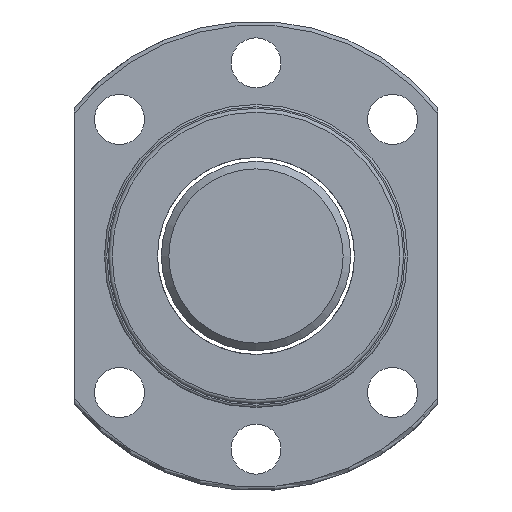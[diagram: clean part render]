
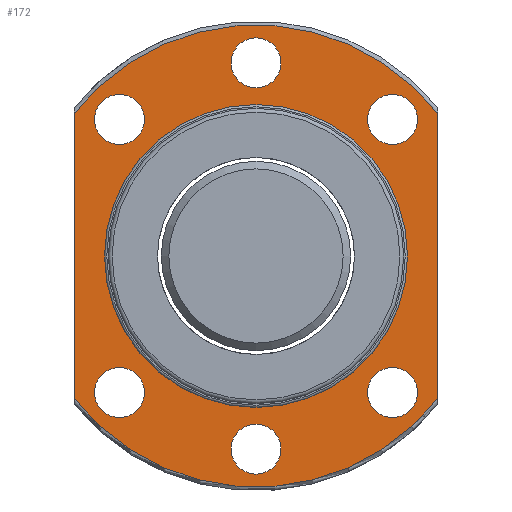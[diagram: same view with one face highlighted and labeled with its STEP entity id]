
A CAD part, left-side view. The second image highlights one B-rep face of the part: STEP entity #172.
In plain terms, the highlighted planar face has unit normal (-1, 0, 0).
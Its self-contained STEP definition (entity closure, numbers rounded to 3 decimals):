
#99=LINE('',#1044,#107);
#100=LINE('',#1046,#108);
#107=VECTOR('',#754,1.);
#108=VECTOR('',#755,1.);
#172=ADVANCED_FACE('',(#213,#245,#246,#247,#248,#249,#250,#251),#198,.T.);
#198=PLANE('',#659);
#213=FACE_OUTER_BOUND('',#309,.T.);
#245=FACE_BOUND('',#310,.T.);
#246=FACE_BOUND('',#311,.T.);
#247=FACE_BOUND('',#312,.T.);
#248=FACE_BOUND('',#313,.T.);
#249=FACE_BOUND('',#314,.T.);
#250=FACE_BOUND('',#315,.T.);
#251=FACE_BOUND('',#316,.T.);
#309=EDGE_LOOP('',(#396,#397,#398,#399));
#310=EDGE_LOOP('',(#400));
#311=EDGE_LOOP('',(#401));
#312=EDGE_LOOP('',(#402));
#313=EDGE_LOOP('',(#403));
#314=EDGE_LOOP('',(#404));
#315=EDGE_LOOP('',(#405));
#316=EDGE_LOOP('',(#406));
#396=ORIENTED_EDGE('',*,*,#550,.F.);
#397=ORIENTED_EDGE('',*,*,#549,.F.);
#398=ORIENTED_EDGE('',*,*,#551,.T.);
#399=ORIENTED_EDGE('',*,*,#552,.F.);
#400=ORIENTED_EDGE('',*,*,#553,.T.);
#401=ORIENTED_EDGE('',*,*,#554,.F.);
#402=ORIENTED_EDGE('',*,*,#555,.F.);
#403=ORIENTED_EDGE('',*,*,#556,.F.);
#404=ORIENTED_EDGE('',*,*,#557,.F.);
#405=ORIENTED_EDGE('',*,*,#558,.F.);
#406=ORIENTED_EDGE('',*,*,#559,.F.);
#496=VERTEX_POINT('',#1021);
#497=VERTEX_POINT('',#1041);
#498=VERTEX_POINT('',#1045);
#499=VERTEX_POINT('',#1047);
#500=VERTEX_POINT('',#1050);
#501=VERTEX_POINT('',#1052);
#502=VERTEX_POINT('',#1054);
#503=VERTEX_POINT('',#1056);
#504=VERTEX_POINT('',#1058);
#505=VERTEX_POINT('',#1060);
#506=VERTEX_POINT('',#1062);
#549=EDGE_CURVE('',#497,#496,#598,.T.);
#550=EDGE_CURVE('',#496,#498,#99,.T.);
#551=EDGE_CURVE('',#497,#499,#100,.T.);
#552=EDGE_CURVE('',#498,#499,#599,.T.);
#553=EDGE_CURVE('',#500,#500,#600,.T.);
#554=EDGE_CURVE('',#501,#501,#601,.T.);
#555=EDGE_CURVE('',#502,#502,#602,.T.);
#556=EDGE_CURVE('',#503,#503,#603,.T.);
#557=EDGE_CURVE('',#504,#504,#604,.T.);
#558=EDGE_CURVE('',#505,#505,#605,.T.);
#559=EDGE_CURVE('',#506,#506,#606,.T.);
#598=CIRCLE('',#649,30.5);
#599=CIRCLE('',#651,30.5);
#600=CIRCLE('',#652,20.);
#601=CIRCLE('',#653,3.3);
#602=CIRCLE('',#654,3.3);
#603=CIRCLE('',#655,3.3);
#604=CIRCLE('',#656,3.3);
#605=CIRCLE('',#657,3.3);
#606=CIRCLE('',#658,3.3);
#649=AXIS2_PLACEMENT_3D('',#1042,#750,#751);
#651=AXIS2_PLACEMENT_3D('',#1048,#756,#757);
#652=AXIS2_PLACEMENT_3D('',#1049,#758,#759);
#653=AXIS2_PLACEMENT_3D('',#1051,#760,#761);
#654=AXIS2_PLACEMENT_3D('',#1053,#762,#763);
#655=AXIS2_PLACEMENT_3D('',#1055,#764,#765);
#656=AXIS2_PLACEMENT_3D('',#1057,#766,#767);
#657=AXIS2_PLACEMENT_3D('',#1059,#768,#769);
#658=AXIS2_PLACEMENT_3D('',#1061,#770,#771);
#659=AXIS2_PLACEMENT_3D('',#1063,#772,#773);
#750=DIRECTION('',(1.,0.,0.));
#751=DIRECTION('',(0.,1.,0.));
#754=DIRECTION('',(0.,0.,1.));
#755=DIRECTION('',(0.,0.,1.));
#756=DIRECTION('',(1.,0.,0.));
#757=DIRECTION('',(0.,1.,0.));
#758=DIRECTION('',(1.,0.,0.));
#759=DIRECTION('',(0.,1.,0.));
#760=DIRECTION('',(-1.,0.,0.));
#761=DIRECTION('',(0.,-1.,0.));
#762=DIRECTION('',(-1.,0.,0.));
#763=DIRECTION('',(0.,-1.,0.));
#764=DIRECTION('',(-1.,0.,0.));
#765=DIRECTION('',(0.,-1.,0.));
#766=DIRECTION('',(-1.,0.,0.));
#767=DIRECTION('',(0.,-1.,0.));
#768=DIRECTION('',(-1.,0.,0.));
#769=DIRECTION('',(0.,-1.,0.));
#770=DIRECTION('',(-1.,0.,0.));
#771=DIRECTION('',(0.,-1.,0.));
#772=DIRECTION('',(-1.,0.,0.));
#773=DIRECTION('',(0.,-1.,0.));
#1021=CARTESIAN_POINT('',(-31.173,24.,-18.822));
#1041=CARTESIAN_POINT('',(-31.173,-24.,-18.822));
#1042=CARTESIAN_POINT('',(-31.173,0.,0.));
#1044=CARTESIAN_POINT('',(-31.173,24.,0.));
#1045=CARTESIAN_POINT('',(-31.173,24.,18.822));
#1046=CARTESIAN_POINT('',(-31.173,-24.,0.));
#1047=CARTESIAN_POINT('',(-31.173,-24.,18.822));
#1048=CARTESIAN_POINT('',(-31.173,0.,0.));
#1049=CARTESIAN_POINT('',(-31.173,0.,0.));
#1050=CARTESIAN_POINT('',(-31.173,20.,0.));
#1051=CARTESIAN_POINT('',(-31.173,18.031,18.031));
#1052=CARTESIAN_POINT('',(-31.173,14.731,18.031));
#1053=CARTESIAN_POINT('',(-31.173,-18.031,18.031));
#1054=CARTESIAN_POINT('',(-31.173,-21.331,18.031));
#1055=CARTESIAN_POINT('',(-31.173,-18.031,-18.031));
#1056=CARTESIAN_POINT('',(-31.173,-21.331,-18.031));
#1057=CARTESIAN_POINT('',(-31.173,18.031,-18.031));
#1058=CARTESIAN_POINT('',(-31.173,14.731,-18.031));
#1059=CARTESIAN_POINT('',(-31.173,0.,25.5));
#1060=CARTESIAN_POINT('',(-31.173,-3.3,25.5));
#1061=CARTESIAN_POINT('',(-31.173,0.,-25.5));
#1062=CARTESIAN_POINT('',(-31.173,-3.3,-25.5));
#1063=CARTESIAN_POINT('',(-31.173,25.25,0.));
